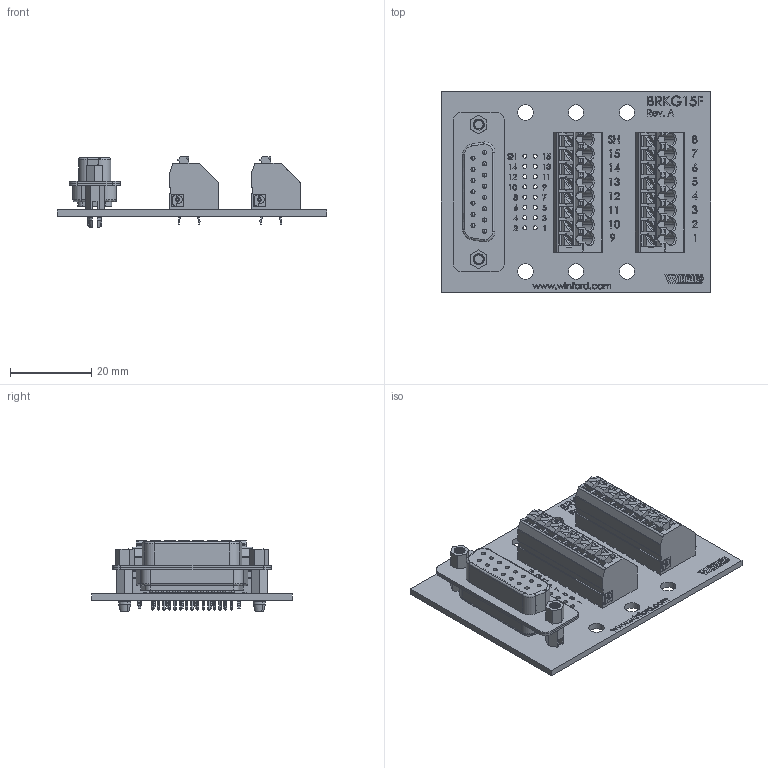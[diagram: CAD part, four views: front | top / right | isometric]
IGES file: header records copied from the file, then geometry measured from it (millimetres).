
Start section: SolidWorks IGES file using analytic representation for surfaces
Global section: file name: C:\Users\Jonny\Documents\Winford Engineering Jobs\BRKG15 Boards\BRKG15F\brkg15f_s_n-rev-a.igs; native system: SolidWorks 2017; preprocessor: SolidWorks 2017; author: Jonny; date: 170801.223018; units: inch
Bounding box: 66.35 x 49.29 x 17.4 mm (x, y, z)
Volume: 14909 mm3; surface area: 16386 mm2
Topology: 40 solids, 40 shells, 3148 faces, 8485 edges, 5444 vertices
Faces by surface type: plane 1777, revolution 942, bspline 429
